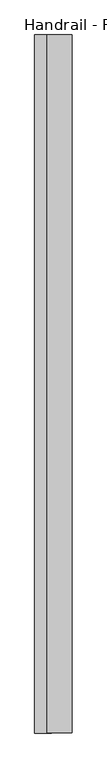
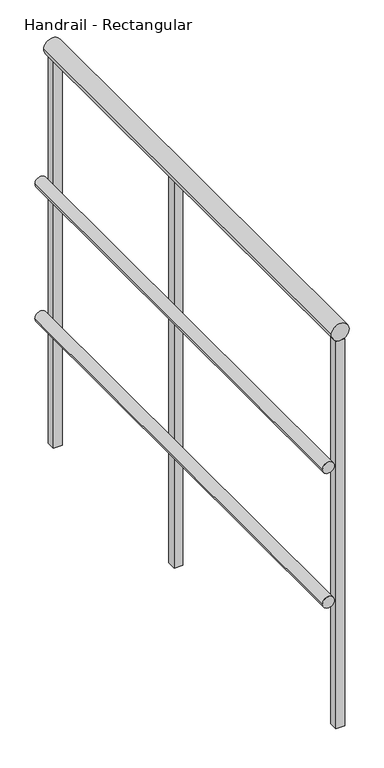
"""IFC4 building model written with IfcOpenShell, lengths in millimetres: railing geometry, Handrail - Rectangular."""

from ifc_helpers import new_model, si_unit, point, frame, frame_2d, origin, place, context, project, spatial, polyline, circle_curve, trimmed, segment, composite_curve, outline, extrude, source, transform, mapped, element, save


def handrail_rectangular_53114f2b(model_context):
    return source(origin(), model_context, "Body", "SweptSolid", [
        extrude(outline(composite_curve([segment(trimmed(circle_curve(frame_2d((3644.9, -32192.8839563)), 12.7), [point((3644.9, -32205.5839563))], [point((3644.9, -32180.1839563))], False, "CARTESIAN"), True, "CONTINUOUS"), segment(trimmed(circle_curve(frame_2d((3644.9, -32192.8839563)), 12.7), [point((3644.9, -32180.1839563))], [point((3644.9, -32205.5839563))], False, "CARTESIAN"), True, "CONTINUOUS")], self_intersect=False)), frame((0.0, -35349.9683133, 0.0), z_axis=(0.0, 1.0, 0.0), x_axis=(0.0, 0.0, 1.0)), (0.0, 0.0, 1.0), 1066.8),
        extrude(outline(composite_curve([segment(trimmed(circle_curve(frame_2d((3340.1, -32192.8839563)), 12.7), [point((3340.1, -32205.5839563))], [point((3340.1, -32180.1839563))], False, "CARTESIAN"), True, "CONTINUOUS"), segment(trimmed(circle_curve(frame_2d((3340.1, -32192.8839563)), 12.7), [point((3340.1, -32180.1839563))], [point((3340.1, -32205.5839563))], False, "CARTESIAN"), True, "CONTINUOUS")], self_intersect=False)), frame((0.0, -35349.9683133, 0.0), z_axis=(0.0, 1.0, 0.0), x_axis=(0.0, 0.0, 1.0)), (0.0, 0.0, 1.0), 1066.8),
        extrude(outline(composite_curve([segment(trimmed(circle_curve(frame_2d((3943.35, -32167.4839563)), 19.05), [point((3943.35, -32186.5339563))], [point((3943.35, -32148.4339563))], False, "CARTESIAN"), True, "CONTINUOUS"), segment(trimmed(circle_curve(frame_2d((3943.35, -32167.4839563)), 19.05), [point((3943.35, -32148.4339563))], [point((3943.35, -32186.5339563))], False, "CARTESIAN"), True, "CONTINUOUS")], self_intersect=False)), frame((0.0, -35349.9683133, 0.0), z_axis=(0.0, 1.0, 0.0), x_axis=(0.0, 0.0, 1.0)), (0.0, 0.0, 1.0), 1066.8),
        extrude(outline(polyline([(-32157.9589563, -34749.8933133), (-32177.0089563, -34749.8933133), (-32177.0089563, -34730.8433133), (-32157.9589563, -34730.8433133), (-32157.9589563, -34749.8933133)])), frame((0.0, 0.0, 3048.0), z_axis=(0.0, 0.0, 1.0), x_axis=(1.0, 0.0, 0.0)), (0.0, 0.0, 1.0), 876.3),
        extrude(outline(polyline([(-32157.9589563, -34302.2183133), (-32177.0089563, -34302.2183133), (-32177.0089563, -34283.1683133), (-32157.9589563, -34283.1683133), (-32157.9589563, -34302.2183133)])), frame((0.0, 0.0, 3048.0), z_axis=(0.0, 0.0, 1.0), x_axis=(1.0, 0.0, 0.0)), (0.0, 0.0, 1.0), 876.3),
        extrude(outline(polyline([(-32157.9589563, -35349.9683133), (-32177.0089563, -35349.9683133), (-32177.0089563, -35330.9183133), (-32157.9589563, -35330.9183133), (-32157.9589563, -35349.9683133)])), frame((0.0, 0.0, 3048.0), z_axis=(0.0, 0.0, 1.0), x_axis=(1.0, 0.0, 0.0)), (0.0, 0.0, 1.0), 876.3),
    ])


if __name__ == "__main__":
    model = new_model("IFC4")
    model_context = context("Model", 3, world=origin())
    ifc_project = project(units=[si_unit("LENGTHUNIT", "METRE", prefix="MILLI")], contexts=[model_context])
    site = spatial("IfcSite", under=ifc_project)
    building = spatial("IfcBuilding", under=site)
    placement = place(None, origin())
    handrail_rectangular_shape = handrail_rectangular_53114f2b(model_context)
    element("IfcRailing", 1, ObjectType="Handrail - Rectangular", at=placement, inside=building, context=model_context, shape_type="MappedRepresentation", body=[
        mapped(handrail_rectangular_shape, transform((0.0, 0.0, 0.0), x_axis=(1.0, 0.0, 0.0), y_axis=(0.0, 1.0, 0.0), z_axis=(0.0, 0.0, 1.0))),
    ])
    save(model, "model.ifc")
